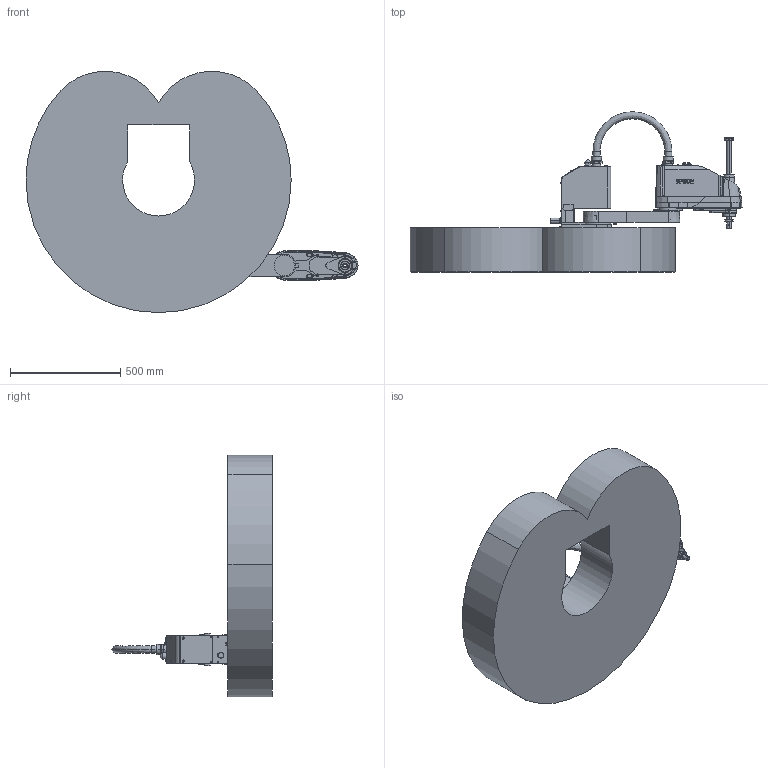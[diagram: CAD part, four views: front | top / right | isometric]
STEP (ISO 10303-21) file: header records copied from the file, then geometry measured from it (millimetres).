
FILE_DESCRIPTION (( 'STEP AP214' ), '1' );
FILE_NAME ('T6-602S.STEP', '2018-07-02T21:37:00', ( '' ), ( '' ), 'SwSTEP 2.0', 'SolidWorks 2013', '' );
FILE_SCHEMA (( 'AUTOMOTIVE_DESIGN' ));
Length unit declared in the file: millimetre
Products named in the file (7): _T6-602SWS; _T6-602S_CABLE_1_2; _T6-602S_SHAFT_1_2; _T6-602S_ARM2_1_2; _T6-602S_ARM1_1_2; _T6-602S_BASE_1_2; T6-602S
Assembly tree (6 placements, depth 2):
  T6-602S
    _T6-602S_BASE_1_2
    _T6-602S_ARM1_1_2
    _T6-602S_ARM2_1_2
    _T6-602S_SHAFT_1_2
    _T6-602S_CABLE_1_2
    _T6-602SWS
Bounding box: 1502.44 x 725.65 x 1092.26 mm (x, y, z)
Volume: 210325397.2 mm3; surface area: 4053652 mm2
Topology: 6 solids, 6 shells, 2328 faces, 5912 edges, 3877 vertices
Faces by surface type: plane 1424, cylinder 590, bspline 157, cone 126, torus 31
Entity records: 118801 total; most frequent: CARTESIAN_POINT 41490, ORIENTED_EDGE 11800, DIRECTION 9139, EDGE_CURVE 5900, VERTEX_POINT 3877, LINE 3615, VECTOR 3615, AXIS2_PLACEMENT_3D 2762
